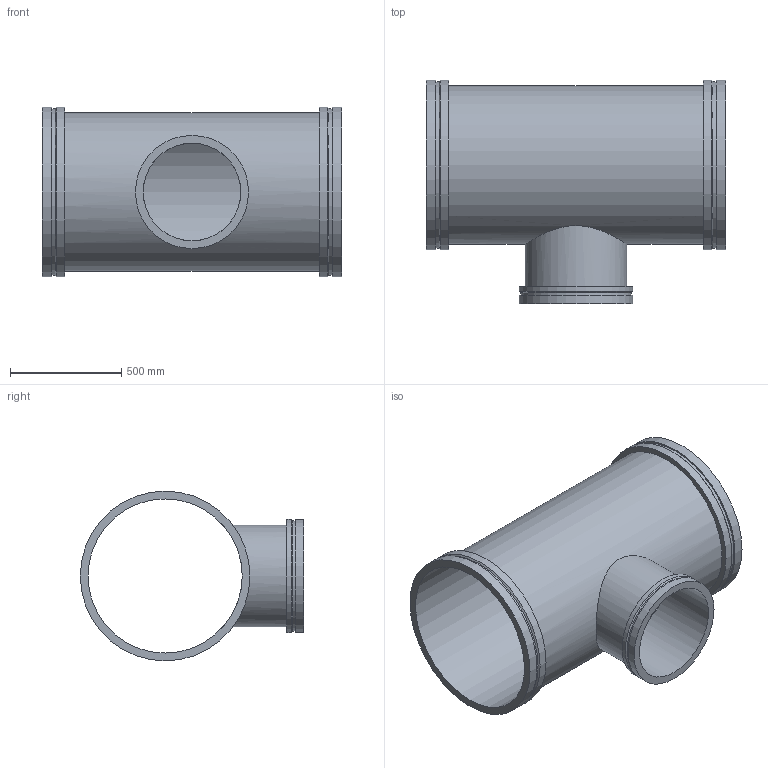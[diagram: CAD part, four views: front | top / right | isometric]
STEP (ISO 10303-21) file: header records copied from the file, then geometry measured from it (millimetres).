
FILE_DESCRIPTION(/* description */ ('VIC REDUCING TEE No W025 VR','CAx-IF Rec.Pracs.---Representation and Presentation of Product Manufacturing Information (PMI)---4.0---2014-10-13'),/* implementation_level */ '2;1');
FILE_NAME(/* name */ 'C:\Users\kkamble\AppData\Roaming\Autodesk\ApplicationPlugins\Back Up\Victaulic_Vic-Ring_Tee Reducing_No W25 VR (AGR)\Victaulic_Vic-Ring_Tee Reducing_No W25 VR (AGR)_28.0x18.0 (700x450).stp',/* time_stamp */ '2020-09-10T11:53:51+05:00',/* author */ ('mchristi'),/* organization */ ('Victaulic'),/* preprocessor_version */ 'ST-DEVELOPER v17.2',/* originating_system */ 'Autodesk Inventor 2019',/* authorisation */ '');
FILE_SCHEMA (('AP242_MANAGED_MODEL_BASED_3D_ENGINEERING_MIM_LF { 1 0 10303 442 1 1 4 }'));
Length unit declared in the file: inch
Products named in the file (1): W25 VR-28.0x18.0
Bounding box: 1346.2 x 1003.3 x 762 mm (x, y, z)
Volume: 45010809.3 mm3; surface area: 6949172.6 mm2
Topology: 1 solids, 1 shells, 25 faces, 68 edges, 52 vertices
Faces by surface type: cylinder 13, plane 9, cone 3
Full cylindrical faces by diameter (mm): 438.15 x1, 457.2 x1, 495.3 x1, 508 x2, 692.15 x1, 711.2 x1, 747.522 x2, 762 x4
Entity records: 1211 total; most frequent: CARTESIAN_POINT 367, DIRECTION 190, ORIENTED_EDGE 136, AXIS2_PLACEMENT_3D 87, EDGE_CURVE 68, VERTEX_POINT 52, CIRCLE 48, EDGE_LOOP 36
